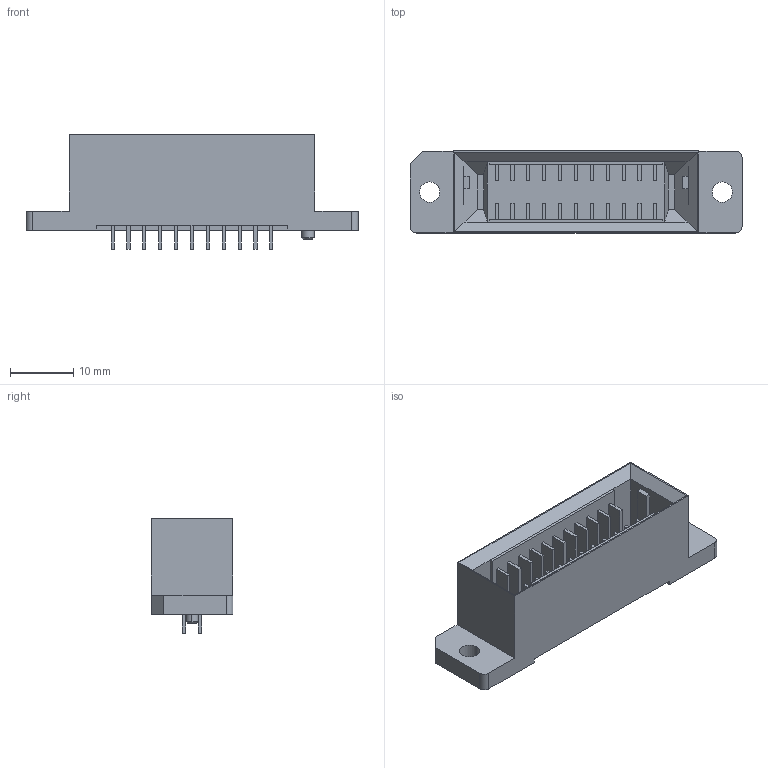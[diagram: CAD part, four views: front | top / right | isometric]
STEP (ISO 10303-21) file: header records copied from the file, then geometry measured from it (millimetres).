
FILE_DESCRIPTION(('CoCreate Modeling STEP Export'),'2;1');
FILE_NAME('P3A946_FA11-022.stp','2017-07-27T15:56:11',(''),(''),'CoCreate Modeling STEP processor for AP214 (Solid Model)','CoCreate Modeling 17.0B 09-Oct-2010 (C) Parametric Technology GmbH','');
FILE_SCHEMA(('AUTOMOTIVE_DESIGN { 1 0 10303 214 1 1 1 1 }'));
Length unit declared in the file: millimetre
Products named in the file (2): FA11-022
Assembly tree (1 placements, depth 2):
  FA11-022
    FA11-022
Bounding box: 52.3 x 12.9 x 18 mm (x, y, z)
Volume: 4194.6 mm3; surface area: 5147.5 mm2
Topology: 1 solids, 1 shells, 266 faces, 703 edges, 463 vertices
Faces by surface type: plane 255, cylinder 9, cone 2
Entity records: 8005 total; most frequent: CARTESIAN_POINT 1412, ORIENTED_EDGE 1406, DIRECTION 1226, EDGE_CURVE 703, VECTOR 672, LINE 672, VERTEX_POINT 463, EDGE_LOOP 294
